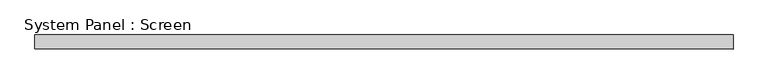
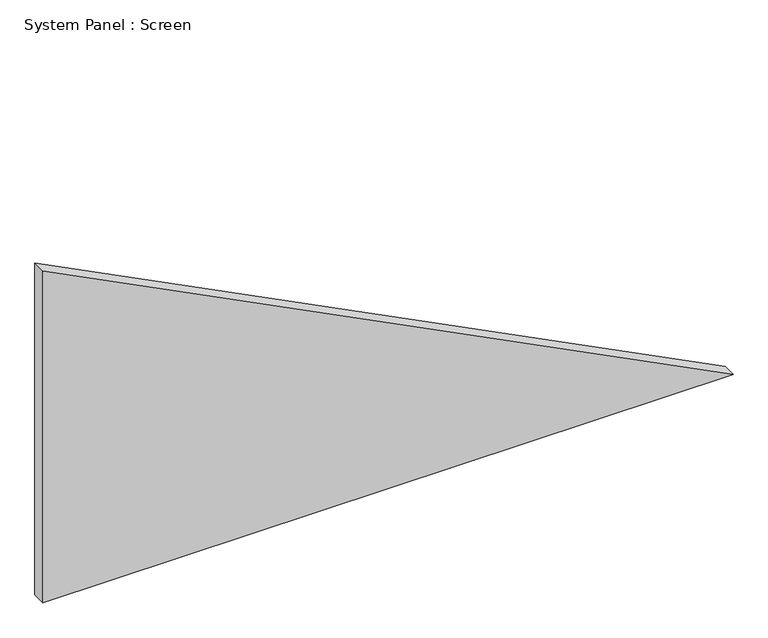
"""IFC4 building model written with IfcOpenShell, lengths in millimetres: plate geometry, System Panel : Screen."""

import ifcopenshell
import ifcopenshell.guid

model = None  # the IFC model being written
_history = None  # IfcOwnerHistory: only IFC2X3 demands one
_inside = {}  # id of a spatial element -> (the spatial element, [elements in it])
_under = {}  # id of a project, library or spatial element -> (it, [spatial elements below it])
_declared = {}  # id of a project -> (the project, [libraries it declares])
_typed = {}  # id of a type object -> (the type object, [elements of that type])
_made_of = {}  # id of a material, layer set ... -> (it, [elements and type objects made of it])


def new_model(schema):
    """Start an empty IFC model of exactly this schema.

    Asked for "IFC4X3", IfcOpenShell would pick the latest addendum, in which some entities
    have other attributes; the version numbers below select the first issue.
    IFC2X3 requires an IfcOwnerHistory on every rooted entity: one is made here for all.
    """
    global model, _history
    if schema == "IFC4X3":
        model = ifcopenshell.file(schema_version=(4, 3, 0, 0))
    else:
        model = ifcopenshell.file(schema=schema)
    _inside.clear()
    _under.clear()
    _declared.clear()
    _typed.clear()
    _made_of.clear()
    _history = None
    if model.schema == "IFC2X3":
        org = make("IfcOrganization", Name="unknown")
        user = make(
            "IfcPersonAndOrganization",
            ThePerson=make("IfcPerson", FamilyName="unknown"),
            TheOrganization=org,
        )
        app = make(
            "IfcApplication",
            ApplicationDeveloper=org,
            Version="unknown",
            ApplicationFullName="unknown",
            ApplicationIdentifier="unknown",
        )
        _history = make(
            "IfcOwnerHistory",
            OwningUser=user,
            OwningApplication=app,
            ChangeAction="ADDED",
            CreationDate=0,
        )
    return model


def make(cls, **values):
    """One entity of the class cls with the attributes given. An attribute that is None is left unset."""
    return model.create_entity(
        cls, **{name: value for name, value in values.items() if value is not None}
    )


def rooted(cls, **values):
    """An entity with a GlobalId (a new one), such as an element, a storey or a relation."""
    return make(cls, GlobalId=ifcopenshell.guid.new(), OwnerHistory=_history, **values)


def si_unit(unit_type, name, prefix=None):
    """IfcSIUnit, for example si_unit("LENGTHUNIT", "METRE", prefix="MILLI")."""
    return make("IfcSIUnit", UnitType=unit_type, Prefix=prefix, Name=name)


def assignment(units):
    """IfcUnitAssignment: the units of a project."""
    return None if units is None else make("IfcUnitAssignment", Units=units)


def point(xyz):
    """IfcCartesianPoint."""
    return None if xyz is None else make("IfcCartesianPoint", Coordinates=xyz)


def direction(xyz):
    """IfcDirection."""
    return None if xyz is None else make("IfcDirection", DirectionRatios=xyz)


def frame(location, z_axis=None, x_axis=None):
    """IfcAxis2Placement3D, a coordinate frame: its origin and axes. An axis left out is left unset."""
    return make(
        "IfcAxis2Placement3D",
        Location=point(location),
        Axis=direction(z_axis),
        RefDirection=direction(x_axis),
    )


def origin():
    """The frame at (0, 0, 0) with its axes left unset."""
    return frame((0.0, 0.0, 0.0))


def place(relative_to, where):
    """IfcLocalPlacement: puts the frame where relative to a parent placement (None: the world)."""
    return make(
        "IfcLocalPlacement", PlacementRelTo=relative_to, RelativePlacement=where
    )


def context(
    kind, dimensions, precision=None, world=None, true_north=None, identifier=None
):
    """IfcGeometricRepresentationContext, for example the 3D "Model" context."""
    return make(
        "IfcGeometricRepresentationContext",
        ContextIdentifier=identifier,
        ContextType=kind,
        CoordinateSpaceDimension=dimensions,
        Precision=precision,
        WorldCoordinateSystem=world,
        TrueNorth=true_north,
    )


def project(units=None, contexts=None):
    """IfcProject with its units and contexts."""
    return rooted(
        "IfcProject",
        Name="project",
        RepresentationContexts=contexts,
        UnitsInContext=assignment(units),
    )


def spatial(cls, under=None, at=None, **own):
    """A site, building, storey or space (cls), placed at a placement, below another one or the project."""
    s = rooted(cls, ObjectPlacement=at, **own)
    if under is not None:
        _under.setdefault(under.id(), (under, []))[1].append(s)
    return s


def polyline(points):
    """IfcPolyline through the points."""
    return make("IfcPolyline", Points=[point(p) for p in points])


def outline(outer, holes=None, kind="AREA"):
    """IfcArbitraryClosedProfileDef: a profile drawn as a closed curve; with holes, ...WithVoids."""
    if holes is None:
        return make("IfcArbitraryClosedProfileDef", ProfileType=kind, OuterCurve=outer)
    return make(
        "IfcArbitraryProfileDefWithVoids",
        ProfileType=kind,
        OuterCurve=outer,
        InnerCurves=holes,
    )


def extrude(swept, where, along, depth):
    """IfcExtrudedAreaSolid: the profile swept, set in the frame where, extruded along a direction by depth."""
    return make(
        "IfcExtrudedAreaSolid",
        SweptArea=swept,
        Position=where,
        ExtrudedDirection=direction(along),
        Depth=depth,
    )


def shape(context_of_items, identifier, shape_type, items):
    """IfcShapeRepresentation: the items that make up one representation, for example the "Body"."""
    return make(
        "IfcShapeRepresentation",
        ContextOfItems=context_of_items,
        RepresentationIdentifier=identifier,
        RepresentationType=shape_type,
        Items=items,
    )


def source(mapping_origin, context_of_items, identifier, shape_type, items):
    """IfcRepresentationMap: a shape defined once, which mapped items show again and again."""
    return make(
        "IfcRepresentationMap",
        MappingOrigin=mapping_origin,
        MappedRepresentation=shape(context_of_items, identifier, shape_type, items),
    )


def transform(
    local_origin,
    x_axis=None,
    y_axis=None,
    z_axis=None,
    scale=None,
    scale2=None,
    scale3=None,
    uniform=True,
):
    """IfcCartesianTransformationOperator3D, or its non-uniform kind. x_axis, y_axis, z_axis: its Axis1, 2, 3."""
    if uniform:
        return make(
            "IfcCartesianTransformationOperator3D",
            Axis1=direction(x_axis),
            Axis2=direction(y_axis),
            LocalOrigin=point(local_origin),
            Scale=scale,
            Axis3=direction(z_axis),
        )
    return make(
        "IfcCartesianTransformationOperator3DnonUniform",
        Axis1=direction(x_axis),
        Axis2=direction(y_axis),
        LocalOrigin=point(local_origin),
        Scale=scale,
        Axis3=direction(z_axis),
        Scale2=scale2,
        Scale3=scale3,
    )


def mapped(mapping_source, mapping_target):
    """IfcMappedItem: shows the shape of a source again, moved by a transform."""
    return make(
        "IfcMappedItem", MappingSource=mapping_source, MappingTarget=mapping_target
    )


def made_of(thing, what):
    """Note that an element or type object is made of a material, layer set ...; save() writes the relation."""
    if what is not None:
        _made_of.setdefault(what.id(), (what, []))[1].append(thing)
    return thing


def element(
    cls,
    number,
    at=None,
    inside=None,
    cuts=None,
    type_object=None,
    material=None,
    context=None,
    identifier="Body",
    shape_type=None,
    held_by="IfcProductDefinitionShape",
    body=None,
    shapes=None,
    **own,
):
    """One element of the class cls, such as IfcWall. Its Tag is "e" and its number.

    at: its placement. inside: the storey or other place that contains it. cuts: it is an
    opening in that element (IfcRelVoidsElement). A single representation is given by context,
    identifier, shape_type and body (its items); several are given by shapes. held_by: the class
    of the entity that holds the representations. save() writes the other relations.
    """
    e = rooted(cls, Tag="e%d" % number, ObjectPlacement=at, **own)
    if body is not None:
        shapes = [shape(context, identifier, shape_type, body)]
    if shapes is not None:
        e.Representation = make(held_by, Representations=shapes)
    if inside is not None:
        _inside.setdefault(inside.id(), (inside, []))[1].append(e)
    if cuts is not None:
        rooted(
            "IfcRelVoidsElement", RelatingBuildingElement=cuts, RelatedOpeningElement=e
        )
    if type_object is not None:
        _typed.setdefault(type_object.id(), (type_object, []))[1].append(e)
    return made_of(e, material)


def aggregate(whole, parts):
    """IfcRelAggregates: a whole, such as a stair, and the parts it consists of."""
    return rooted("IfcRelAggregates", RelatingObject=whole, RelatedObjects=parts)


def save(model, path):
    """Write the relations noted so far, then the file.

    IfcRelAggregates (storeys below a building ...), IfcRelContainedInSpatialStructure (elements
    in a storey), IfcRelDefinesByType, IfcRelAssociatesMaterial and IfcRelDeclares: one each for
    every whole, place, type object, material and project.
    """
    for whole, parts in _under.values():
        aggregate(whole, parts)
    for where, things in _inside.values():
        rooted(
            "IfcRelContainedInSpatialStructure",
            RelatedElements=things,
            RelatingStructure=where,
        )
    for kind, things in _typed.values():
        rooted("IfcRelDefinesByType", RelatedObjects=things, RelatingType=kind)
    for what, things in _made_of.values():
        rooted("IfcRelAssociatesMaterial", RelatedObjects=things, RelatingMaterial=what)
    for by, libraries in _declared.values():
        rooted("IfcRelDeclares", RelatingContext=by, RelatedDefinitions=libraries)
    model.write(path)


def system_panel_screen_d623d4bf(model_context):
    return source(origin(), model_context, "Body", "SweptSolid", [
        extrude(outline(polyline([(0.0, -631.962344), (0.0, 631.962344), (642.4744418, -631.962344), (0.0, -631.962344)])), frame((0.0, -12.7, 0.0), z_axis=(0.0, 1.0, 0.0), x_axis=(0.0, 0.0, 1.0)), (0.0, 0.0, 1.0), 25.4),
    ])


if __name__ == "__main__":
    model = new_model("IFC4")
    model_context = context("Model", 3, world=origin())
    ifc_project = project(units=[si_unit("LENGTHUNIT", "METRE", prefix="MILLI")], contexts=[model_context])
    site = spatial("IfcSite", under=ifc_project)
    building = spatial("IfcBuilding", under=site)
    placement = place(None, origin())
    system_panel_screen_shape = system_panel_screen_d623d4bf(model_context)
    element("IfcPlate", 1, ObjectType="System Panel : Screen", at=placement, inside=building, context=model_context, shape_type="MappedRepresentation", body=[
        mapped(system_panel_screen_shape, transform((0.0, 0.0, 0.0), x_axis=(1.0, 0.0, 0.0), y_axis=(0.0, 1.0, 0.0), z_axis=(0.0, 0.0, 1.0))),
    ])
    save(model, "model.ifc")
